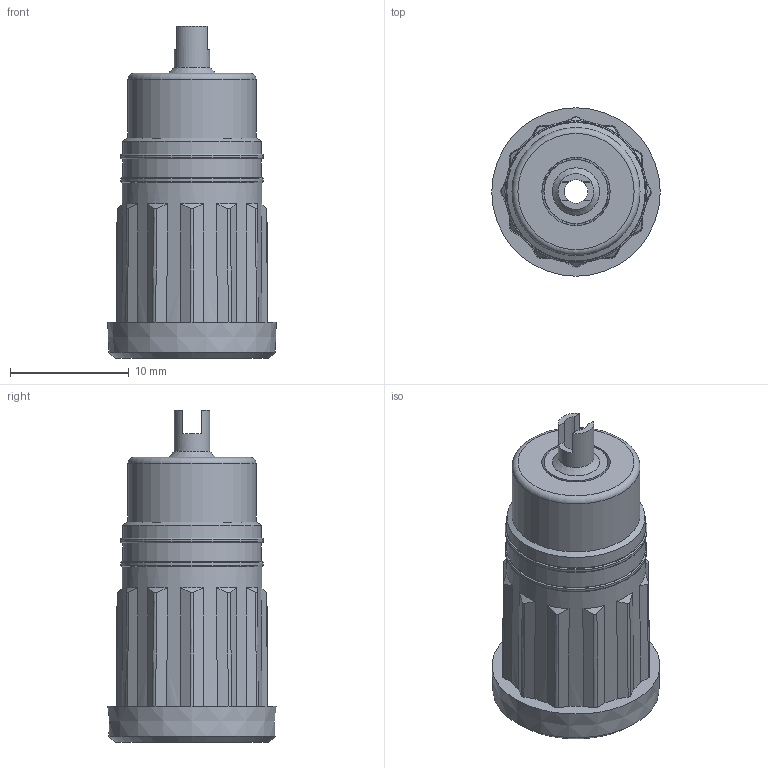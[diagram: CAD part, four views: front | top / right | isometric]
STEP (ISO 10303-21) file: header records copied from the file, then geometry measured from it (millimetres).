
FILE_DESCRIPTION (( 'STEP AP214' ), '1' );
FILE_NAME ('CT2911-0.STEP', '2017-10-11T17:16:27', ( '' ), ( '' ), 'SwSTEP 2.0', 'SolidWorks 2014', '' );
FILE_SCHEMA (( 'AUTOMOTIVE_DESIGN' ));
Length unit declared in the file: millimetre
Products named in the file (3): 440-3xx_440-305; CT2911-0; 440-310_440-310-00
Assembly tree (2 placements, depth 2):
  CT2911-0
    440-310_440-310-00
    440-3xx_440-305
Bounding box: 14.21 x 14.21 x 28 mm (x, y, z)
Volume: 1767.9 mm3; surface area: 3114.7 mm2
Topology: 2 solids, 2 shells, 222 faces, 549 edges, 357 vertices
Faces by surface type: plane 152, cone 43, bspline 12, torus 8, cylinder 7
Full cylindrical faces by diameter (mm): 2 x1, 3 x1, 4.1 x1, 5.4 x1, 10.8 x1, 12 x2
Entity records: 6604 total; most frequent: CARTESIAN_POINT 1483, ORIENTED_EDGE 1024, DIRECTION 1000, EDGE_CURVE 512, AXIS2_PLACEMENT_3D 369, VERTEX_POINT 348, EDGE_LOOP 280, VECTOR 262
